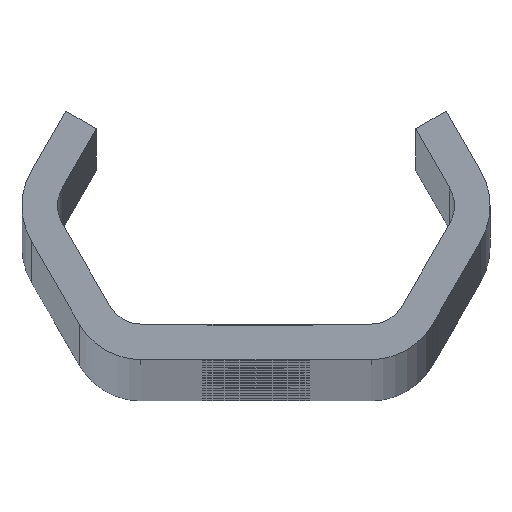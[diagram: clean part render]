
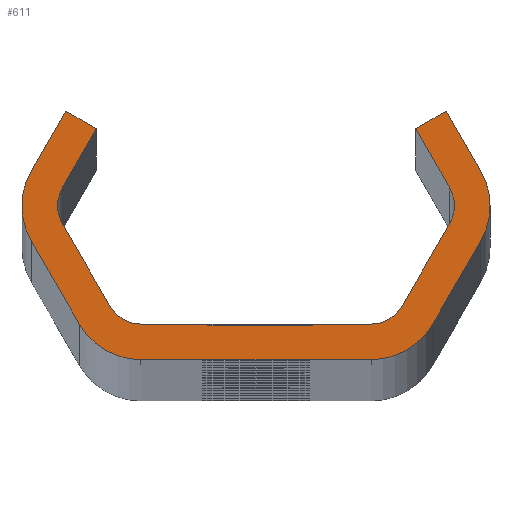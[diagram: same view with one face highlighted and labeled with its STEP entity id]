
A CAD part, top view. The second image highlights one B-rep face of the part: STEP entity #611.
In plain terms, the highlighted planar face has unit normal (0, 0, 1).
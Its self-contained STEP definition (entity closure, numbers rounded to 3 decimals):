
#611=ADVANCED_FACE('NONE',(#1689),#1690,.F.);
#1689=FACE_OUTER_BOUND('',#5410,.T.);
#1690=PLANE('',#5411);
#5410=EDGE_LOOP('',(#11064,#11065,#11066,#11067,#11068,#11069,#11070,#11071,#11072,#11073,#11074,#11075,#11076,#11077,#11078,#11079,#11080,#11081,#11082,#11083,#11084,#11085,#11086,#11087,#11088,#11089,#11090,#11091));
#5411=AXIS2_PLACEMENT_3D('',#11092,#11093,#11094);
#11064=ORIENTED_EDGE('',*,*,#14806,.F.);
#11065=ORIENTED_EDGE('',*,*,#14807,.T.);
#11066=ORIENTED_EDGE('',*,*,#14482,.T.);
#11067=ORIENTED_EDGE('',*,*,#14808,.T.);
#11068=ORIENTED_EDGE('',*,*,#14757,.T.);
#11069=ORIENTED_EDGE('',*,*,#14809,.T.);
#11070=ORIENTED_EDGE('',*,*,#14189,.T.);
#11071=ORIENTED_EDGE('',*,*,#14760,.T.);
#11072=ORIENTED_EDGE('',*,*,#14766,.T.);
#11073=ORIENTED_EDGE('',*,*,#14770,.T.);
#11074=ORIENTED_EDGE('',*,*,#14810,.T.);
#11075=ORIENTED_EDGE('',*,*,#14456,.T.);
#11076=ORIENTED_EDGE('',*,*,#14772,.T.);
#11077=ORIENTED_EDGE('',*,*,#14811,.T.);
#11078=ORIENTED_EDGE('',*,*,#14776,.T.);
#11079=ORIENTED_EDGE('',*,*,#14812,.T.);
#11080=ORIENTED_EDGE('',*,*,#14463,.T.);
#11081=ORIENTED_EDGE('',*,*,#14813,.T.);
#11082=ORIENTED_EDGE('',*,*,#14194,.T.);
#11083=ORIENTED_EDGE('',*,*,#14466,.T.);
#11084=ORIENTED_EDGE('',*,*,#14472,.T.);
#11085=ORIENTED_EDGE('',*,*,#14475,.T.);
#11086=ORIENTED_EDGE('',*,*,#14453,.T.);
#11087=ORIENTED_EDGE('',*,*,#14814,.T.);
#11088=ORIENTED_EDGE('',*,*,#14477,.T.);
#11089=ORIENTED_EDGE('',*,*,#14815,.T.);
#11090=ORIENTED_EDGE('',*,*,#14485,.T.);
#11091=ORIENTED_EDGE('',*,*,#14816,.T.);
#11092=CARTESIAN_POINT('',(0.0,0.0,2000.0));
#11093=DIRECTION('',(0.0,0.0,-1.0));
#11094=DIRECTION('',(0.0,-1.0,0.0));
#14189=EDGE_CURVE('NONE',#15813,#15817,#15819,.T.);
#14194=EDGE_CURVE('NONE',#15822,#15826,#15828,.T.);
#14453=EDGE_CURVE('NONE',#16294,#16292,#16295,.T.);
#14456=EDGE_CURVE('NONE',#16298,#16299,#16300,.T.);
#14463=EDGE_CURVE('NONE',#16312,#16310,#16313,.T.);
#14466=EDGE_CURVE('NONE',#15826,#16316,#16317,.T.);
#14472=EDGE_CURVE('NONE',#16316,#16324,#16326,.T.);
#14475=EDGE_CURVE('NONE',#16324,#16294,#16329,.T.);
#14477=EDGE_CURVE('NONE',#16331,#16332,#16333,.T.);
#14482=EDGE_CURVE('NONE',#16340,#16341,#16342,.T.);
#14485=EDGE_CURVE('NONE',#16347,#16345,#16348,.T.);
#14757=EDGE_CURVE('NONE',#16852,#16850,#16853,.T.);
#14760=EDGE_CURVE('NONE',#15817,#16856,#16857,.T.);
#14766=EDGE_CURVE('NONE',#16856,#16864,#16866,.T.);
#14770=EDGE_CURVE('NONE',#16864,#16870,#16872,.T.);
#14772=EDGE_CURVE('NONE',#16299,#16874,#16875,.T.);
#14776=EDGE_CURVE('NONE',#16880,#16881,#16882,.T.);
#14806=EDGE_CURVE('NONE',#16914,#16915,#16916,.T.);
#14807=EDGE_CURVE('NONE',#16914,#16340,#16917,.T.);
#14808=EDGE_CURVE('NONE',#16341,#16852,#16918,.T.);
#14809=EDGE_CURVE('NONE',#16850,#15813,#16919,.T.);
#14810=EDGE_CURVE('NONE',#16870,#16298,#16920,.T.);
#14811=EDGE_CURVE('NONE',#16874,#16880,#16921,.T.);
#14812=EDGE_CURVE('NONE',#16881,#16312,#16922,.T.);
#14813=EDGE_CURVE('NONE',#16310,#15822,#16923,.T.);
#14814=EDGE_CURVE('NONE',#16292,#16331,#16924,.T.);
#14815=EDGE_CURVE('NONE',#16332,#16347,#16925,.T.);
#14816=EDGE_CURVE('NONE',#16345,#16915,#16926,.T.);
#15813=VERTEX_POINT('',#18221);
#15817=VERTEX_POINT('NONE',#18226);
#15819=CIRCLE('',#18229,3.0);
#15822=VERTEX_POINT('',#18232);
#15826=VERTEX_POINT('NONE',#18237);
#15828=CIRCLE('',#18240,6.0);
#16292=VERTEX_POINT('NONE',#21028);
#16294=VERTEX_POINT('NONE',#21031);
#16295=CIRCLE('',#21032,3.0);
#16298=VERTEX_POINT('NONE',#21036);
#16299=VERTEX_POINT('NONE',#21037);
#16300=CIRCLE('',#21038,6.0);
#16310=VERTEX_POINT('NONE',#21051);
#16312=VERTEX_POINT('NONE',#21054);
#16313=LINE('',#21055,#21056);
#16316=VERTEX_POINT('NONE',#21060);
#16317=LINE('',#21061,#21062);
#16324=VERTEX_POINT('NONE',#21072);
#16326=LINE('',#21075,#21076);
#16329=LINE('',#21080,#21081);
#16331=VERTEX_POINT('NONE',#21083);
#16332=VERTEX_POINT('NONE',#21084);
#16333=LINE('',#21085,#21086);
#16340=VERTEX_POINT('NONE',#21096);
#16341=VERTEX_POINT('NONE',#21097);
#16342=LINE('',#21098,#21099);
#16345=VERTEX_POINT('NONE',#21103);
#16347=VERTEX_POINT('NONE',#21106);
#16348=LINE('',#21107,#21108);
#16850=VERTEX_POINT('NONE',#22962);
#16852=VERTEX_POINT('NONE',#22965);
#16853=LINE('',#22966,#22967);
#16856=VERTEX_POINT('NONE',#22971);
#16857=LINE('',#22972,#22973);
#16864=VERTEX_POINT('NONE',#22983);
#16866=LINE('',#22986,#22987);
#16870=VERTEX_POINT('NONE',#22992);
#16872=LINE('',#22995,#22996);
#16874=VERTEX_POINT('NONE',#22998);
#16875=LINE('',#22999,#23000);
#16880=VERTEX_POINT('NONE',#23007);
#16881=VERTEX_POINT('NONE',#23008);
#16882=LINE('',#23009,#23010);
#16914=VERTEX_POINT('NONE',#23045);
#16915=VERTEX_POINT('NONE',#23046);
#16916=LINE('',#23047,#23048);
#16917=LINE('',#23049,#23050);
#16918=CIRCLE('',#23051,3.0);
#16919=CIRCLE('',#23052,3.0);
#16920=CIRCLE('',#23053,6.0);
#16921=CIRCLE('',#23054,6.0);
#16922=CIRCLE('',#23055,6.0);
#16923=CIRCLE('',#23056,6.0);
#16924=CIRCLE('',#23057,3.0);
#16925=CIRCLE('',#23058,3.0);
#16926=LINE('',#23059,#23060);
#18221=CARTESIAN_POINT('',(-16.764,0.,2000.0));
#18226=CARTESIAN_POINT('',(-16.362,1.5,2000.0));
#18229=AXIS2_PLACEMENT_3D('',#27373,#27374,#27375);
#18232=CARTESIAN_POINT('',(19.764,0.,2000.0));
#18237=CARTESIAN_POINT('',(18.96,3.,2000.0));
#18240=AXIS2_PLACEMENT_3D('',#27381,#27382,#27383);
#21028=CARTESIAN_POINT('',(16.764,0.,2000.0));
#21031=CARTESIAN_POINT('',(16.362,1.5,2000.0));
#21032=AXIS2_PLACEMENT_3D('',#27640,#27641,#27642);
#21036=CARTESIAN_POINT('',(-19.764,0.,2000.0));
#21037=CARTESIAN_POINT('',(-18.96,-3.,2000.0));
#21038=AXIS2_PLACEMENT_3D('',#27644,#27645,#27646);
#21051=CARTESIAN_POINT('',(18.96,-3.,2000.0));
#21054=CARTESIAN_POINT('',(14.919,-10.,2000.0));
#21055=CARTESIAN_POINT('',(20.692,0.,2000.0));
#21056=VECTOR('',#27654,1000.0);
#21060=CARTESIAN_POINT('',(16.074,8.,2000.0));
#21061=CARTESIAN_POINT('',(16.074,8.,2000.0));
#21062=VECTOR('',#27656,1000.0);
#21072=CARTESIAN_POINT('',(13.475,6.5,2000.0));
#21075=CARTESIAN_POINT('',(13.475,6.5,2000.0));
#21076=VECTOR('',#27661,1000.0);
#21080=CARTESIAN_POINT('',(17.228,0.,2000.0));
#21081=VECTOR('',#27663,1000.0);
#21083=CARTESIAN_POINT('',(16.362,-1.5,2000.0));
#21084=CARTESIAN_POINT('',(12.321,-8.5,2000.0));
#21085=CARTESIAN_POINT('',(11.455,-10.0,2000.0));
#21086=VECTOR('',#27664,1000.0);
#21096=CARTESIAN_POINT('',(-4.063,-10.0,2000.0));
#21097=CARTESIAN_POINT('',(-9.723,-10.0,2000.0));
#21098=CARTESIAN_POINT('',(-11.455,-10.0,2000.0));
#21099=VECTOR('',#27668,1000.0);
#21103=CARTESIAN_POINT('',(-3.458,-10.0,2000.0));
#21106=CARTESIAN_POINT('',(9.723,-10.0,2000.0));
#21107=CARTESIAN_POINT('',(-11.455,-10.0,2000.0));
#21108=VECTOR('',#27671,1000.0);
#22962=CARTESIAN_POINT('',(-16.362,-1.5,2000.0));
#22965=CARTESIAN_POINT('',(-12.321,-8.5,2000.0));
#22966=CARTESIAN_POINT('',(-17.228,0.,2000.0));
#22967=VECTOR('',#27965,1000.0);
#22971=CARTESIAN_POINT('',(-13.475,6.5,2000.0));
#22972=CARTESIAN_POINT('',(-13.475,6.5,2000.0));
#22973=VECTOR('',#27967,1000.0);
#22983=CARTESIAN_POINT('',(-16.074,8.,2000.0));
#22986=CARTESIAN_POINT('',(-13.475,6.5,2000.0));
#22987=VECTOR('',#27972,1000.0);
#22992=CARTESIAN_POINT('',(-18.96,3.,2000.0));
#22995=CARTESIAN_POINT('',(-16.074,8.,2000.0));
#22996=VECTOR('',#27975,1000.0);
#22998=CARTESIAN_POINT('',(-14.919,-10.,2000.0));
#22999=CARTESIAN_POINT('',(-20.692,0.,2000.0));
#23000=VECTOR('',#27976,1000.0);
#23007=CARTESIAN_POINT('',(-9.723,-13.0,2000.0));
#23008=CARTESIAN_POINT('',(9.723,-13.0,2000.0));
#23009=CARTESIAN_POINT('',(-13.187,-13.0,2000.0));
#23010=VECTOR('',#27979,1000.0);
#23045=CARTESIAN_POINT('',(-4.063,-10.1,2000.0));
#23046=CARTESIAN_POINT('',(-3.458,-10.1,2000.0));
#23047=CARTESIAN_POINT('',(0.0,-10.1,2000.0));
#23048=VECTOR('',#28058,1000.0);
#23049=CARTESIAN_POINT('',(-4.063,0.,2000.0));
#23050=VECTOR('',#28059,1000.0);
#23051=AXIS2_PLACEMENT_3D('',#28060,#28061,#28062);
#23052=AXIS2_PLACEMENT_3D('',#28063,#28064,#28065);
#23053=AXIS2_PLACEMENT_3D('',#28066,#28067,#28068);
#23054=AXIS2_PLACEMENT_3D('',#28069,#28070,#28071);
#23055=AXIS2_PLACEMENT_3D('',#28072,#28073,#28074);
#23056=AXIS2_PLACEMENT_3D('',#28075,#28076,#28077);
#23057=AXIS2_PLACEMENT_3D('',#28078,#28079,#28080);
#23058=AXIS2_PLACEMENT_3D('',#28081,#28082,#28083);
#23059=CARTESIAN_POINT('',(-3.458,0.,2000.0));
#23060=VECTOR('',#28084,1000.0);
#27373=CARTESIAN_POINT('',(-13.764,0.,2000.0));
#27374=DIRECTION('',(0.0,0.0,-1.0));
#27375=DIRECTION('',(-1.0,0.0,0.0));
#27381=CARTESIAN_POINT('',(13.764,0.,2000.0));
#27382=DIRECTION('',(0.0,0.0,1.0));
#27383=DIRECTION('',(-1.0,0.0,0.0));
#27640=CARTESIAN_POINT('',(13.764,0.,2000.0));
#27641=DIRECTION('',(0.0,0.0,-1.0));
#27642=DIRECTION('',(-1.0,0.0,0.0));
#27644=CARTESIAN_POINT('',(-13.764,0.,2000.0));
#27645=DIRECTION('',(0.0,0.0,1.0));
#27646=DIRECTION('',(-1.0,0.0,0.0));
#27654=DIRECTION('',(0.5,0.866,-0.0));
#27656=DIRECTION('',(-0.5,0.866,-0.0));
#27661=DIRECTION('',(-0.866,-0.5,-0.0));
#27663=DIRECTION('',(0.5,-0.866,-0.0));
#27664=DIRECTION('',(-0.5,-0.866,-0.0));
#27668=DIRECTION('',(-1.0,0.,-0.0));
#27671=DIRECTION('',(-1.0,0.,-0.0));
#27965=DIRECTION('',(-0.5,0.866,-0.0));
#27967=DIRECTION('',(0.5,0.866,-0.0));
#27972=DIRECTION('',(-0.866,0.5,0.0));
#27975=DIRECTION('',(-0.5,-0.866,0.0));
#27976=DIRECTION('',(0.5,-0.866,0.0));
#27979=DIRECTION('',(1.0,0.0,0.0));
#28058=DIRECTION('',(1.0,0.0,0.0));
#28059=DIRECTION('',(0.,1.0,0.0));
#28060=CARTESIAN_POINT('',(-9.723,-7.0,2000.0));
#28061=DIRECTION('',(0.0,0.0,-1.0));
#28062=DIRECTION('',(-1.0,0.0,0.0));
#28063=CARTESIAN_POINT('',(-13.764,0.,2000.0));
#28064=DIRECTION('',(0.0,0.0,-1.0));
#28065=DIRECTION('',(-1.0,0.0,0.0));
#28066=CARTESIAN_POINT('',(-13.764,0.,2000.0));
#28067=DIRECTION('',(0.0,0.0,1.0));
#28068=DIRECTION('',(-1.0,0.,0.0));
#28069=CARTESIAN_POINT('',(-9.723,-7.0,2000.0));
#28070=DIRECTION('',(0.0,0.0,1.0));
#28071=DIRECTION('',(-1.0,0.0,0.0));
#28072=CARTESIAN_POINT('',(9.723,-7.0,2000.0));
#28073=DIRECTION('',(0.0,0.0,1.0));
#28074=DIRECTION('',(-1.0,0.,0.0));
#28075=CARTESIAN_POINT('',(13.764,0.,2000.0));
#28076=DIRECTION('',(0.0,0.0,1.0));
#28077=DIRECTION('',(-1.0,0.0,0.0));
#28078=CARTESIAN_POINT('',(13.764,0.,2000.0));
#28079=DIRECTION('',(0.0,0.0,-1.0));
#28080=DIRECTION('',(-1.0,0.0,0.0));
#28081=CARTESIAN_POINT('',(9.723,-7.0,2000.0));
#28082=DIRECTION('',(0.0,0.0,-1.0));
#28083=DIRECTION('',(-1.0,0.0,0.0));
#28084=DIRECTION('',(0.,-1.0,0.0));
